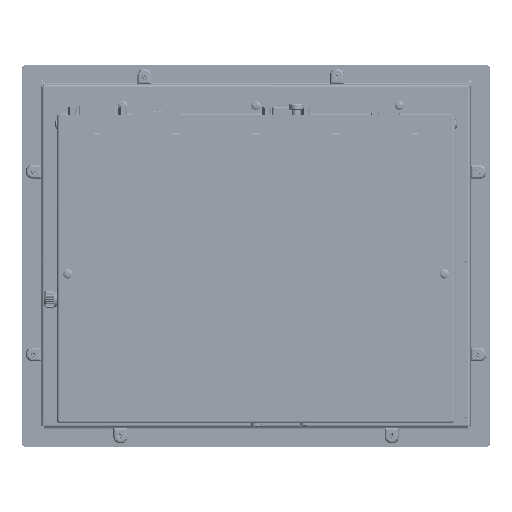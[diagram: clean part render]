
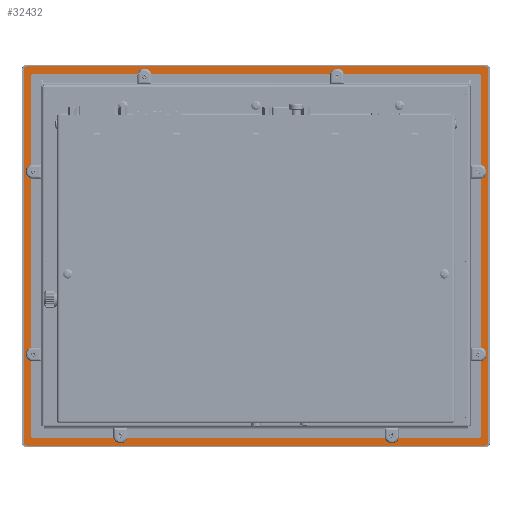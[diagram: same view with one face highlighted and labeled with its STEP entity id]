
A CAD part, front view. The second image highlights one B-rep face of the part: STEP entity #32432.
In plain terms, the highlighted planar face has unit normal (0, -1, 0).
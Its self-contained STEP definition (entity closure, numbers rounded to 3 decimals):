
#29216=DIRECTION('',(0.,0.,1.));
#29217=VECTOR('',#29216,231.);
#29218=CARTESIAN_POINT('',(144.,0.5,-111.));
#29219=LINE('',#29218,#29217);
#29220=DIRECTION('',(-1.,0.,0.));
#29221=VECTOR('',#29220,286.);
#29222=CARTESIAN_POINT('',(143.,0.5,121.));
#29223=LINE('',#29222,#29221);
#29232=DIRECTION('',(0.,0.,-1.));
#29233=VECTOR('',#29232,231.);
#29234=CARTESIAN_POINT('',(-144.,0.5,120.));
#29235=LINE('',#29234,#29233);
#29244=DIRECTION('',(1.,0.,0.));
#29245=VECTOR('',#29244,286.);
#29246=CARTESIAN_POINT('',(-143.,0.5,-112.));
#29247=LINE('',#29246,#29245);
#30185=CARTESIAN_POINT('',(147.,0.5,-115.));
#30186=DIRECTION('',(0.,1.,0.));
#30187=DIRECTION('',(1.,0.,0.));
#30188=AXIS2_PLACEMENT_3D('',#30185,#30186,#30187);
#30190=DIRECTION('',(-1.,0.,0.));
#30191=VECTOR('',#30190,294.);
#30192=CARTESIAN_POINT('',(147.,0.5,-117.));
#30193=LINE('',#30192,#30191);
#30194=CARTESIAN_POINT('',(-147.,0.5,-115.));
#30195=DIRECTION('',(0.,1.,0.));
#30196=DIRECTION('',(0.,0.,-1.));
#30197=AXIS2_PLACEMENT_3D('',#30194,#30195,#30196);
#30199=DIRECTION('',(0.,0.,1.));
#30200=VECTOR('',#30199,239.);
#30201=CARTESIAN_POINT('',(-149.,0.5,-115.));
#30202=LINE('',#30201,#30200);
#30203=CARTESIAN_POINT('',(-147.,0.5,124.));
#30204=DIRECTION('',(0.,1.,0.));
#30205=DIRECTION('',(-1.,0.,0.));
#30206=AXIS2_PLACEMENT_3D('',#30203,#30204,#30205);
#30208=DIRECTION('',(1.,0.,0.));
#30209=VECTOR('',#30208,294.);
#30210=CARTESIAN_POINT('',(-147.,0.5,126.));
#30211=LINE('',#30210,#30209);
#30212=CARTESIAN_POINT('',(147.,0.5,124.));
#30213=DIRECTION('',(0.,1.,0.));
#30214=DIRECTION('',(0.,0.,1.));
#30215=AXIS2_PLACEMENT_3D('',#30212,#30213,#30214);
#30217=DIRECTION('',(0.,0.,-1.));
#30218=VECTOR('',#30217,239.);
#30219=CARTESIAN_POINT('',(149.,0.5,124.));
#30220=LINE('',#30219,#30218);
#30221=CARTESIAN_POINT('',(-143.,0.5,120.));
#30222=DIRECTION('',(0.,-1.,0.));
#30223=DIRECTION('',(0.,0.,1.));
#30224=AXIS2_PLACEMENT_3D('',#30221,#30222,#30223);
#30226=CARTESIAN_POINT('',(-143.,0.5,-111.));
#30227=DIRECTION('',(0.,-1.,0.));
#30228=DIRECTION('',(-1.,0.,0.));
#30229=AXIS2_PLACEMENT_3D('',#30226,#30227,#30228);
#30231=CARTESIAN_POINT('',(143.,0.5,-111.));
#30232=DIRECTION('',(0.,-1.,0.));
#30233=DIRECTION('',(0.,0.,-1.));
#30234=AXIS2_PLACEMENT_3D('',#30231,#30232,#30233);
#30236=CARTESIAN_POINT('',(143.,0.5,120.));
#30237=DIRECTION('',(0.,-1.,0.));
#30238=DIRECTION('',(1.,0.,0.));
#30239=AXIS2_PLACEMENT_3D('',#30236,#30237,#30238);
#31029=CARTESIAN_POINT('',(147.,0.5,-117.));
#31030=CARTESIAN_POINT('',(149.,0.5,-115.));
#31031=VERTEX_POINT('',#31029);
#31032=VERTEX_POINT('',#31030);
#31033=CARTESIAN_POINT('',(149.,0.5,124.));
#31034=VERTEX_POINT('',#31033);
#31035=CARTESIAN_POINT('',(147.,0.5,126.));
#31036=VERTEX_POINT('',#31035);
#31037=CARTESIAN_POINT('',(-147.,0.5,126.));
#31038=VERTEX_POINT('',#31037);
#31039=CARTESIAN_POINT('',(-149.,0.5,124.));
#31040=VERTEX_POINT('',#31039);
#31041=CARTESIAN_POINT('',(-149.,0.5,-115.));
#31042=VERTEX_POINT('',#31041);
#31043=CARTESIAN_POINT('',(-147.,0.5,-117.));
#31044=VERTEX_POINT('',#31043);
#31061=CARTESIAN_POINT('',(143.,0.5,121.));
#31062=CARTESIAN_POINT('',(-143.,0.5,121.));
#31063=VERTEX_POINT('',#31061);
#31064=VERTEX_POINT('',#31062);
#31065=CARTESIAN_POINT('',(-144.,0.5,120.));
#31066=CARTESIAN_POINT('',(-144.,0.5,-111.));
#31067=VERTEX_POINT('',#31065);
#31068=VERTEX_POINT('',#31066);
#31069=CARTESIAN_POINT('',(-143.,0.5,-112.));
#31070=CARTESIAN_POINT('',(143.,0.5,-112.));
#31071=VERTEX_POINT('',#31069);
#31072=VERTEX_POINT('',#31070);
#31073=CARTESIAN_POINT('',(144.,0.5,-111.));
#31074=VERTEX_POINT('',#31073);
#31075=CARTESIAN_POINT('',(144.,0.5,120.));
#31076=VERTEX_POINT('',#31075);
#32395=CARTESIAN_POINT('',(0.,0.5,0.));
#32396=DIRECTION('',(0.,-1.,0.));
#32397=DIRECTION('',(-1.,0.,0.));
#32398=AXIS2_PLACEMENT_3D('',#32395,#32396,#32397);
#32399=PLANE('',#32398);
#32401=ORIENTED_EDGE('',*,*,#32400,.T.);
#32403=ORIENTED_EDGE('',*,*,#32402,.T.);
#32405=ORIENTED_EDGE('',*,*,#32404,.T.);
#32407=ORIENTED_EDGE('',*,*,#32406,.T.);
#32409=ORIENTED_EDGE('',*,*,#32408,.T.);
#32411=ORIENTED_EDGE('',*,*,#32410,.T.);
#32413=ORIENTED_EDGE('',*,*,#32412,.T.);
#32415=ORIENTED_EDGE('',*,*,#32414,.T.);
#32416=EDGE_LOOP('',(#32401,#32403,#32405,#32407,#32409,#32411,#32413,#32415));
#32417=FACE_OUTER_BOUND('',#32416,.F.);
#32418=ORIENTED_EDGE('',*,*,#31555,.T.);
#32420=ORIENTED_EDGE('',*,*,#32419,.T.);
#32421=ORIENTED_EDGE('',*,*,#31571,.T.);
#32423=ORIENTED_EDGE('',*,*,#32422,.T.);
#32424=ORIENTED_EDGE('',*,*,#31587,.T.);
#32426=ORIENTED_EDGE('',*,*,#32425,.T.);
#32427=ORIENTED_EDGE('',*,*,#31545,.T.);
#32429=ORIENTED_EDGE('',*,*,#32428,.T.);
#32430=EDGE_LOOP('',(#32418,#32420,#32421,#32423,#32424,#32426,#32427,#32429));
#32431=FACE_BOUND('',#32430,.F.);
#30189=CIRCLE('',#30188,2.);
#30198=CIRCLE('',#30197,2.);
#30207=CIRCLE('',#30206,2.);
#30216=CIRCLE('',#30215,2.);
#30225=CIRCLE('',#30224,1.);
#30230=CIRCLE('',#30229,1.);
#30235=CIRCLE('',#30234,1.);
#30240=CIRCLE('',#30239,1.);
#31545=EDGE_CURVE('',#31074,#31076,#29219,.T.);
#31555=EDGE_CURVE('',#31063,#31064,#29223,.T.);
#31571=EDGE_CURVE('',#31067,#31068,#29235,.T.);
#31587=EDGE_CURVE('',#31071,#31072,#29247,.T.);
#32400=EDGE_CURVE('',#31032,#31031,#30189,.T.);
#32402=EDGE_CURVE('',#31031,#31044,#30193,.T.);
#32404=EDGE_CURVE('',#31044,#31042,#30198,.T.);
#32406=EDGE_CURVE('',#31042,#31040,#30202,.T.);
#32408=EDGE_CURVE('',#31040,#31038,#30207,.T.);
#32410=EDGE_CURVE('',#31038,#31036,#30211,.T.);
#32412=EDGE_CURVE('',#31036,#31034,#30216,.T.);
#32414=EDGE_CURVE('',#31034,#31032,#30220,.T.);
#32419=EDGE_CURVE('',#31064,#31067,#30225,.T.);
#32422=EDGE_CURVE('',#31068,#31071,#30230,.T.);
#32425=EDGE_CURVE('',#31072,#31074,#30235,.T.);
#32428=EDGE_CURVE('',#31076,#31063,#30240,.T.);
#32432=ADVANCED_FACE('',(#32417,#32431),#32399,.T.);
